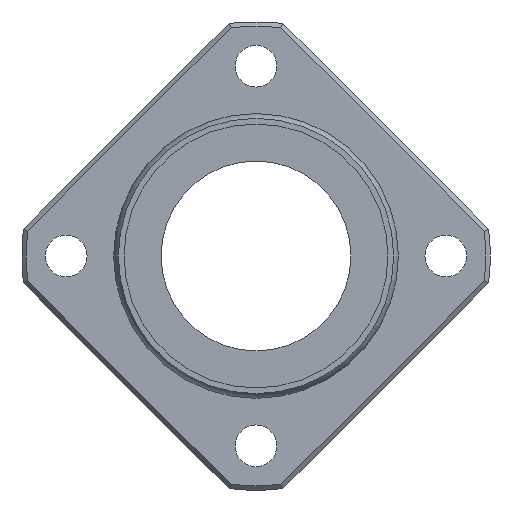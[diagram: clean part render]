
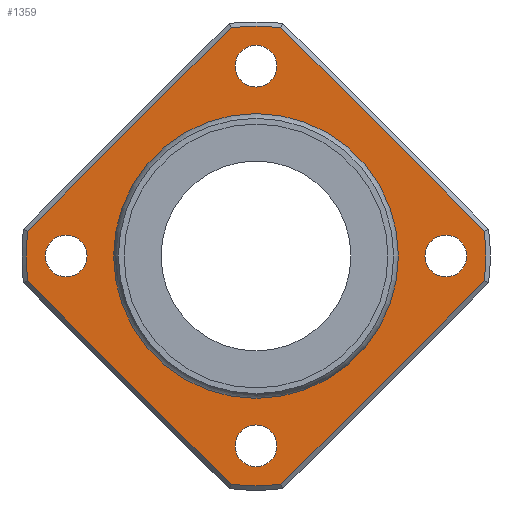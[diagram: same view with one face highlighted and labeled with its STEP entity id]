
A CAD part, left-side view. The second image highlights one B-rep face of the part: STEP entity #1359.
In plain terms, the highlighted planar face has unit normal (-1, 0, 0).
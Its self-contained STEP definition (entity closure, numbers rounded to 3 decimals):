
#935=CARTESIAN_POINT('',(-46.,36.086,3.936));
#936=VERTEX_POINT('',#935);
#944=CARTESIAN_POINT('',(-46.,3.936,36.086));
#945=VERTEX_POINT('',#944);
#946=CARTESIAN_POINT('',(-46.,36.086,3.936));
#947=DIRECTION('',(0.0,-0.707,0.707));
#948=VECTOR('',#947,45.466);
#949=LINE('',#946,#948);
#950=EDGE_CURVE('',#936,#945,#949,.T.);
#977=CARTESIAN_POINT('',(-46.,-3.936,36.086));
#978=VERTEX_POINT('',#977);
#979=CARTESIAN_POINT('',(-46.,0.0,0.0));
#980=DIRECTION('',(1.0,0.0,0.0));
#981=DIRECTION('',(0.0,0.0,1.0));
#982=AXIS2_PLACEMENT_3D('',#979,#980,#981);
#983=CIRCLE('',#982,36.3);
#984=EDGE_CURVE('',#945,#978,#983,.T.);
#1010=CARTESIAN_POINT('',(-46.,-36.086,3.936));
#1011=VERTEX_POINT('',#1010);
#1012=CARTESIAN_POINT('',(-46.,-3.936,36.086));
#1013=DIRECTION('',(0.0,-0.707,-0.707));
#1014=VECTOR('',#1013,45.466);
#1015=LINE('',#1012,#1014);
#1016=EDGE_CURVE('',#978,#1011,#1015,.T.);
#1043=CARTESIAN_POINT('',(-46.,-36.086,-3.936));
#1044=VERTEX_POINT('',#1043);
#1045=CARTESIAN_POINT('',(-46.,0.0,0.0));
#1046=DIRECTION('',(1.0,0.0,0.0));
#1047=DIRECTION('',(0.0,0.0,1.0));
#1048=AXIS2_PLACEMENT_3D('',#1045,#1046,#1047);
#1049=CIRCLE('',#1048,36.3);
#1050=EDGE_CURVE('',#1011,#1044,#1049,.T.);
#1076=CARTESIAN_POINT('',(-46.,-3.936,-36.086));
#1077=VERTEX_POINT('',#1076);
#1078=CARTESIAN_POINT('',(-46.,-36.086,-3.936));
#1079=DIRECTION('',(0.0,0.707,-0.707));
#1080=VECTOR('',#1079,45.466);
#1081=LINE('',#1078,#1080);
#1082=EDGE_CURVE('',#1044,#1077,#1081,.T.);
#1109=CARTESIAN_POINT('',(-46.,3.936,-36.086));
#1110=VERTEX_POINT('',#1109);
#1111=CARTESIAN_POINT('',(-46.,0.0,0.0));
#1112=DIRECTION('',(1.0,0.0,0.0));
#1113=DIRECTION('',(0.0,0.0,-1.0));
#1114=AXIS2_PLACEMENT_3D('',#1111,#1112,#1113);
#1115=CIRCLE('',#1114,36.3);
#1116=EDGE_CURVE('',#1077,#1110,#1115,.T.);
#1142=CARTESIAN_POINT('',(-46.,36.086,-3.936));
#1143=VERTEX_POINT('',#1142);
#1144=CARTESIAN_POINT('',(-46.,3.936,-36.086));
#1145=DIRECTION('',(0.0,0.707,0.707));
#1146=VECTOR('',#1145,45.466);
#1147=LINE('',#1144,#1146);
#1148=EDGE_CURVE('',#1110,#1143,#1147,.T.);
#1173=CARTESIAN_POINT('',(-46.,0.0,0.0));
#1174=DIRECTION('',(1.0,0.0,0.0));
#1175=DIRECTION('',(0.0,0.0,1.0));
#1176=AXIS2_PLACEMENT_3D('',#1173,#1174,#1175);
#1177=CIRCLE('',#1176,36.3);
#1178=EDGE_CURVE('',#1143,#936,#1177,.T.);
#1289=CARTESIAN_POINT('',(-46.,0.0,29.563));
#1290=DIRECTION('',(-1.0,0.0,0.0));
#1291=DIRECTION('',(0.0,0.0,1.0));
#1292=AXIS2_PLACEMENT_3D('',#1289,#1290,#1291);
#1293=PLANE('',#1292);
#1294=ORIENTED_EDGE('',*,*,#950,.F.);
#1295=ORIENTED_EDGE('',*,*,#1178,.F.);
#1296=ORIENTED_EDGE('',*,*,#1148,.F.);
#1297=ORIENTED_EDGE('',*,*,#1116,.F.);
#1298=ORIENTED_EDGE('',*,*,#1082,.F.);
#1299=ORIENTED_EDGE('',*,*,#1050,.F.);
#1300=ORIENTED_EDGE('',*,*,#1016,.F.);
#1301=ORIENTED_EDGE('',*,*,#984,.F.);
#1302=EDGE_LOOP('',(#1294,#1295,#1296,#1297,#1298,#1299,#1300,#1301));
#1303=FACE_OUTER_BOUND('',#1302,.T.);
#1304=CARTESIAN_POINT('',(-46.,0.0,22.127));
#1305=VERTEX_POINT('',#1304);
#1306=CARTESIAN_POINT('',(-46.,0.0,0.0));
#1307=DIRECTION('',(-1.0,0.0,0.0));
#1308=DIRECTION('',(0.0,0.0,1.0));
#1309=AXIS2_PLACEMENT_3D('',#1306,#1307,#1308);
#1310=CIRCLE('',#1309,22.127);
#1311=EDGE_CURVE('',#1305,#1305,#1310,.T.);
#1312=ORIENTED_EDGE('',*,*,#1311,.F.);
#1313=EDGE_LOOP('',(#1312));
#1314=FACE_BOUND('',#1313,.T.);
#1315=CARTESIAN_POINT('',(-46.,26.7,0.));
#1316=VERTEX_POINT('',#1315);
#1317=CARTESIAN_POINT('',(-46.,30.0,0.));
#1318=DIRECTION('',(1.0,0.0,0.0));
#1319=DIRECTION('',(0.0,1.0,0.0));
#1320=AXIS2_PLACEMENT_3D('',#1317,#1318,#1319);
#1321=CIRCLE('',#1320,3.3);
#1322=EDGE_CURVE('',#1316,#1316,#1321,.T.);
#1323=ORIENTED_EDGE('',*,*,#1322,.T.);
#1324=EDGE_LOOP('',(#1323));
#1325=FACE_BOUND('',#1324,.T.);
#1326=CARTESIAN_POINT('',(-46.,-33.3,0.));
#1327=VERTEX_POINT('',#1326);
#1328=CARTESIAN_POINT('',(-46.,-30.0,0.0));
#1329=DIRECTION('',(1.0,0.0,0.0));
#1330=DIRECTION('',(0.0,1.0,0.0));
#1331=AXIS2_PLACEMENT_3D('',#1328,#1329,#1330);
#1332=CIRCLE('',#1331,3.3);
#1333=EDGE_CURVE('',#1327,#1327,#1332,.T.);
#1334=ORIENTED_EDGE('',*,*,#1333,.T.);
#1335=EDGE_LOOP('',(#1334));
#1336=FACE_BOUND('',#1335,.T.);
#1337=CARTESIAN_POINT('',(-46.,-3.3,30.0));
#1338=VERTEX_POINT('',#1337);
#1339=CARTESIAN_POINT('',(-46.,0.,30.0));
#1340=DIRECTION('',(1.0,0.0,0.0));
#1341=DIRECTION('',(0.0,1.0,0.0));
#1342=AXIS2_PLACEMENT_3D('',#1339,#1340,#1341);
#1343=CIRCLE('',#1342,3.3);
#1344=EDGE_CURVE('',#1338,#1338,#1343,.T.);
#1345=ORIENTED_EDGE('',*,*,#1344,.T.);
#1346=EDGE_LOOP('',(#1345));
#1347=FACE_BOUND('',#1346,.T.);
#1348=CARTESIAN_POINT('',(-46.,-3.3,-30.0));
#1349=VERTEX_POINT('',#1348);
#1350=CARTESIAN_POINT('',(-46.,0.,-30.0));
#1351=DIRECTION('',(1.0,0.0,0.0));
#1352=DIRECTION('',(0.0,1.0,0.0));
#1353=AXIS2_PLACEMENT_3D('',#1350,#1351,#1352);
#1354=CIRCLE('',#1353,3.3);
#1355=EDGE_CURVE('',#1349,#1349,#1354,.T.);
#1356=ORIENTED_EDGE('',*,*,#1355,.T.);
#1357=EDGE_LOOP('',(#1356));
#1358=FACE_BOUND('',#1357,.T.);
#1359=ADVANCED_FACE('',(#1303,#1314,#1325,#1336,#1347,#1358),#1293,.T.);
